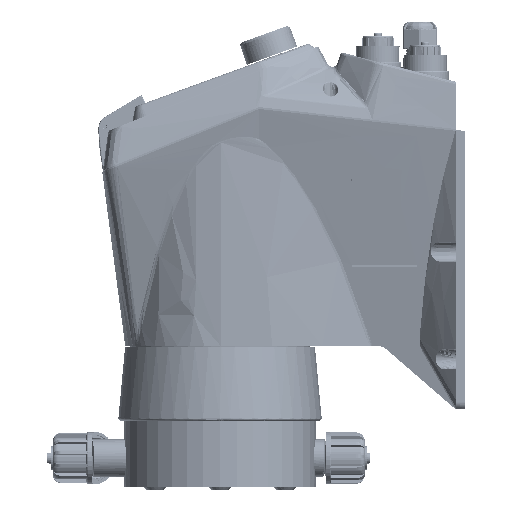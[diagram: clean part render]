
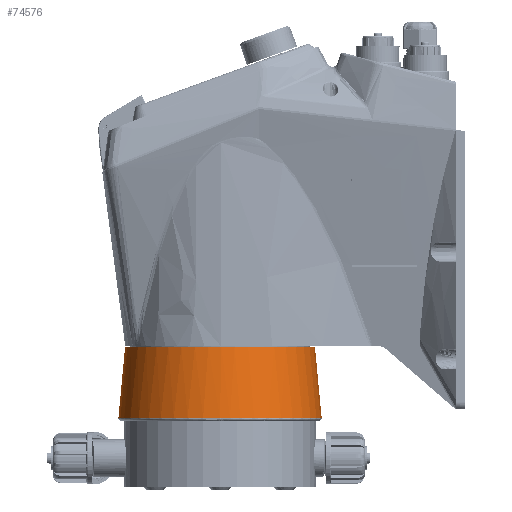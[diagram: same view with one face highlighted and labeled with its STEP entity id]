
A CAD part, left-side view. The second image highlights one B-rep face of the part: STEP entity #74576.
In plain terms, the highlighted free-form (B-spline) face has degree [1, 2] with [2, 9] control points.
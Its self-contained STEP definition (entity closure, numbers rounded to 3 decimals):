
#5841 = EDGE_CURVE ( 'NONE', #257805, #332730, #252047, .T. ) ;
#9137 = EDGE_LOOP ( 'NONE', ( #236114, #39001, #70971, #240694, #131864 ) ) ;
#10171 = CARTESIAN_POINT ( 'NONE',  ( -56.815, -56.815, -40.359 ) ) ;
#14564 = CARTESIAN_POINT ( 'NONE',  ( -56.815, -56.815, -40.359 ) ) ;
#37121 = CARTESIAN_POINT ( 'NONE',  ( 0., -53.048, -0.5 ) ) ;
#37200 = CARTESIAN_POINT ( 'NONE',  ( -56.815, 0., -40.359 ) ) ;
#38877 = CARTESIAN_POINT ( 'NONE',  ( -53.047, 53.047, -0.5 ) ) ;
#39001 = ORIENTED_EDGE ( 'NONE', *, *, #264936, .T. ) ;
#39952 = CARTESIAN_POINT ( 'NONE',  ( -56.815, 0., -40.359 ) ) ;
#42179 = FACE_OUTER_BOUND ( 'NONE', #9137, .T. ) ;
#55339 = VERTEX_POINT ( 'NONE', #81946 ) ;
#57512 = CARTESIAN_POINT ( 'NONE',  ( -56.815, 0., -40.359 ) ) ;
#60786 = CARTESIAN_POINT ( 'NONE',  ( 53.047, 0., -0.5 ) ) ;
#67427 = CARTESIAN_POINT ( 'NONE',  ( 0., 56.815, -40.359 ) ) ;
#70971 = ORIENTED_EDGE ( 'NONE', *, *, #5841, .T. ) ;
#74576 = ADVANCED_FACE ( 'NONE', ( #42179 ), #323934, .T. ) ;
#79531 = EDGE_CURVE ( 'NONE', #254192, #93924, #251588, .T. ) ;
#80977 = CARTESIAN_POINT ( 'NONE',  ( 0., -53.048, -0.5 ) ) ;
#81946 = CARTESIAN_POINT ( 'NONE',  ( 0., -56.815, -40.359 ) ) ;
#87740 = CARTESIAN_POINT ( 'NONE',  ( -53.047, -53.048, -0.5 ) ) ;
#93924 = VERTEX_POINT ( 'NONE', #294774 ) ;
#111431 = CARTESIAN_POINT ( 'NONE',  ( 56.815, -56.815, -40.359 ) ) ;
#113097 = CARTESIAN_POINT ( 'NONE',  ( 53.047, 53.047, -0.5 ) ) ;
#116467 = CARTESIAN_POINT ( 'NONE',  ( 0., 53.047, -0.5 ) ) ;
#122654 = B_SPLINE_CURVE_WITH_KNOTS ( 'NONE', 1,
 ( #270373, #245078 ),
 .UNSPECIFIED., .F., .F.,
 ( 2, 2 ),
 ( -0.364, 0.364 ),
 .UNSPECIFIED. ) ;
#131864 = ORIENTED_EDGE ( 'NONE', *, *, #79531, .F. ) ;
#138471 = CARTESIAN_POINT ( 'NONE',  ( 0., 56.815, -40.359 ) ) ;
#159154 = CARTESIAN_POINT ( 'NONE',  ( -56.815, 56.815, -40.359 ) ) ;
#170550 = CARTESIAN_POINT ( 'NONE',  ( 53.047, -53.048, -0.5 ) ) ;
#177389 = B_SPLINE_CURVE_WITH_KNOTS ( 'NONE', 1,
 ( #292038, #80977 ),
 .UNSPECIFIED., .F., .F.,
 ( 2, 2 ),
 ( -0.364, 0.364 ),
 .UNSPECIFIED. ) ;
#192562 = CARTESIAN_POINT ( 'NONE',  ( -56.815, 56.815, -40.359 ) ) ;
#200188 = EDGE_CURVE ( 'NONE', #93924, #332730, #122654, .T. ) ;
#209805 = CARTESIAN_POINT ( 'NONE',  ( 0., 56.815, -40.359 ) ) ;
#235846 = EDGE_CURVE ( 'NONE', #55339, #254192, #320462, .T. ) ;
#236114 = ORIENTED_EDGE ( 'NONE', *, *, #235846, .F. ) ;
#240694 = ORIENTED_EDGE ( 'NONE', *, *, #200188, .F. ) ;
#241465 = CARTESIAN_POINT ( 'NONE',  ( 0., -56.815, -40.359 ) ) ;
#242153 = CARTESIAN_POINT ( 'NONE',  ( 0., 53.047, -0.5 ) ) ;
#243150 = CARTESIAN_POINT ( 'NONE',  ( -53.047, 0., -0.5 ) ) ;
#245078 = CARTESIAN_POINT ( 'NONE',  ( 0., 53.047, -0.5 ) ) ;
#247535 = CARTESIAN_POINT ( 'NONE',  ( 0., -56.815, -40.359 ) ) ;
#251588 =( BOUNDED_CURVE ( )  B_SPLINE_CURVE ( 2, ( #285725, #159154, #209805 ),
 .UNSPECIFIED., .F., .F. ) 
 B_SPLINE_CURVE_WITH_KNOTS ( ( 3, 3 ),
 ( 3.142, 4.712 ),
 .UNSPECIFIED. ) 
 CURVE ( )  GEOMETRIC_REPRESENTATION_ITEM ( )  RATIONAL_B_SPLINE_CURVE ( ( 1., 0.707, 1. ) ) 
 REPRESENTATION_ITEM ( '' )  );
#252047 =( BOUNDED_CURVE ( )  B_SPLINE_CURVE ( 2, ( #324784, #269158, #319783, #272498, #242153 ),
 .UNSPECIFIED., .F., .F. ) 
 B_SPLINE_CURVE_WITH_KNOTS ( ( 3, 2, 3 ),
 ( 1.571, 3.142, 4.712 ),
 .UNSPECIFIED. ) 
 CURVE ( )  GEOMETRIC_REPRESENTATION_ITEM ( )  RATIONAL_B_SPLINE_CURVE ( ( 1., 0.707, 1., 0.707, 1. ) ) 
 REPRESENTATION_ITEM ( '' )  );
#254192 = VERTEX_POINT ( 'NONE', #57512 ) ;
#257805 = VERTEX_POINT ( 'NONE', #37121 ) ;
#264936 = EDGE_CURVE ( 'NONE', #55339, #257805, #177389, .T. ) ;
#269158 = CARTESIAN_POINT ( 'NONE',  ( -53.047, -53.048, -0.5 ) ) ;
#270125 = CARTESIAN_POINT ( 'NONE',  ( 0., -53.048, -0.5 ) ) ;
#270373 = CARTESIAN_POINT ( 'NONE',  ( 0., 56.815, -40.359 ) ) ;
#272498 = CARTESIAN_POINT ( 'NONE',  ( -53.047, 53.047, -0.5 ) ) ;
#285725 = CARTESIAN_POINT ( 'NONE',  ( -56.815, 0., -40.359 ) ) ;
#292038 = CARTESIAN_POINT ( 'NONE',  ( 0., -56.815, -40.359 ) ) ;
#292108 = CARTESIAN_POINT ( 'NONE',  ( 0., 53.047, -0.5 ) ) ;
#294774 = CARTESIAN_POINT ( 'NONE',  ( 0., 56.815, -40.359 ) ) ;
#303793 = CARTESIAN_POINT ( 'NONE',  ( 0., 53.047, -0.5 ) ) ;
#319091 = CARTESIAN_POINT ( 'NONE',  ( 56.815, 56.815, -40.359 ) ) ;
#319783 = CARTESIAN_POINT ( 'NONE',  ( -53.047, 0., -0.5 ) ) ;
#320462 =( BOUNDED_CURVE ( )  B_SPLINE_CURVE ( 2, ( #247535, #14564, #39952 ),
 .UNSPECIFIED., .F., .F. ) 
 B_SPLINE_CURVE_WITH_KNOTS ( ( 3, 3 ),
 ( 1.571, 3.142 ),
 .UNSPECIFIED. ) 
 CURVE ( )  GEOMETRIC_REPRESENTATION_ITEM ( )  RATIONAL_B_SPLINE_CURVE ( ( 1., 0.707, 1. ) ) 
 REPRESENTATION_ITEM ( '' )  );
#320775 = CARTESIAN_POINT ( 'NONE',  ( 56.815, 0., -40.359 ) ) ;
#323934 =( BOUNDED_SURFACE ( )  B_SPLINE_SURFACE ( 1, 2, ( 
 ( #138471, #319091, #320775, #111431, #241465, #10171, #37200, #192562, #67427 ),
 ( #292108, #113097, #60786, #170550, #270125, #87740, #243150, #38877, #116467 ) ),
 .UNSPECIFIED., .F., .T., .F. ) 
 B_SPLINE_SURFACE_WITH_KNOTS ( ( 2, 2 ),
 ( 3, 2, 2, 2, 3 ),
 ( -0.364, 0.364 ),
 ( -3.142, -1.571, 0., 1.571, 3.142 ),
 .UNSPECIFIED. ) 
 GEOMETRIC_REPRESENTATION_ITEM ( )  RATIONAL_B_SPLINE_SURFACE ( (
 ( 1., 0.707, 1., 0.707, 1., 0.707, 1., 0.707, 1.),
 ( 1., 0.707, 1., 0.707, 1., 0.707, 1., 0.707, 1.) ) ) 
 REPRESENTATION_ITEM ( '' )  SURFACE ( )  );
#324784 = CARTESIAN_POINT ( 'NONE',  ( 0., -53.048, -0.5 ) ) ;
#332730 = VERTEX_POINT ( 'NONE', #303793 ) ;
